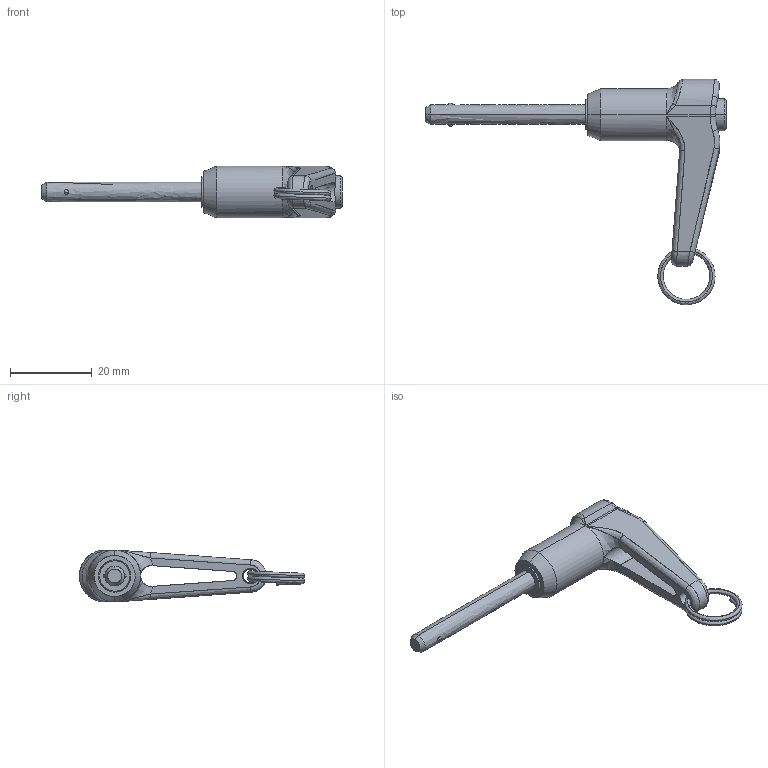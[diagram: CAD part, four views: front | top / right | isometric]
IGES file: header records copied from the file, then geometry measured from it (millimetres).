
Start section: SolidWorks IGES file using analytic representation for surfaces
Global section: file name: C:\Documents and Settings\IANO\My Documents\Wix and Auto CAD Work\CAD Models\Parametric Models\Wix Models\30000\33620_v2\33620_v2_20160606_IGES\33620.A013.igs; native system: SolidWorks 2009; preprocessor: SolidWorks 2009; author: IANO; date: 160615.125619; units: inch
Bounding box: 73.49 x 55.09 x 12.7 mm (x, y, z)
Surface area: 5261.1 mm2 (no closed solid volume)
Topology: 0 solids, 0 shells, 83 faces, 1168 edges, 1166 vertices
Faces by surface type: bspline 53, revolution 30
